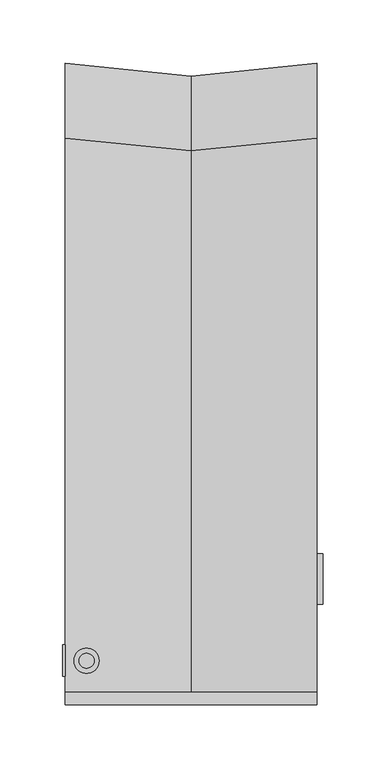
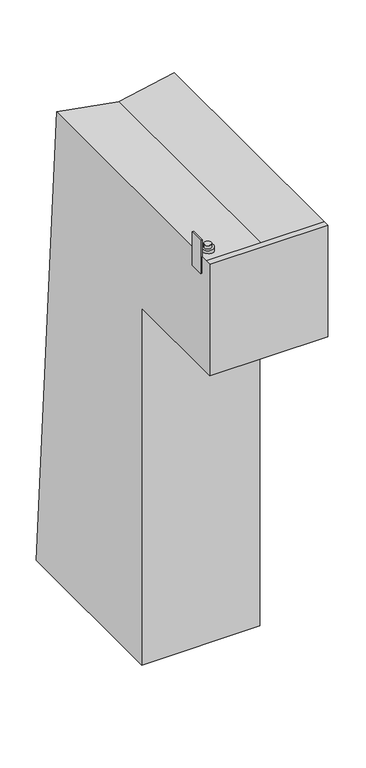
"""IFC4 building model written with IfcOpenShell, lengths in millimetres: furniture geometry, Bebedero : Bebedero."""

from ifc_helpers import new_model, si_unit, point, frame, frame_2d, origin, place, context, project, spatial, polyline, circle_curve, trimmed, segment, composite_curve, outline, extrude, faceted_brep, source, transform, mapped, element, save


def furniture_aa3b6743(model_context):
    return source(origin(), model_context, "Body", "SolidModel", [
        extrude(outline(composite_curve([segment(trimmed(circle_curve(frame_2d((-100.0, 740.0)), 20.0), [point((-120.0, 740.0))], [point((-80.0, 740.0))], False, "CARTESIAN"), True, "CONTINUOUS"), segment(trimmed(circle_curve(frame_2d((-100.0, 740.0)), 20.0), [point((-80.0, 740.0))], [point((-120.0, 740.0))], False, "CARTESIAN"), True, "CONTINUOUS")], self_intersect=False)), frame((100.0, 0.0, 0.0), z_axis=(1.0, 0.0, 0.0), x_axis=(0.0, 1.0, 0.0)), (0.0, 0.0, 1.0), 5.0),
        extrude(outline(composite_curve([segment(trimmed(circle_curve(frame_2d((-83.1664177, -164.9187737)), 6.0), [point((-89.1664177, -164.9187737))], [point((-77.1664177, -164.9187737))], False, "CARTESIAN"), True, "CONTINUOUS"), segment(trimmed(circle_curve(frame_2d((-83.1664177, -164.9187737)), 6.0), [point((-77.1664177, -164.9187737))], [point((-89.1664177, -164.9187737))], False, "CARTESIAN"), True, "CONTINUOUS")], self_intersect=False)), frame((0.0, 0.0, 844.0047458), z_axis=(0.0, 0.0, 1.0), x_axis=(1.0, 0.0, 0.0)), (0.0, 0.0, 1.0), 5.9952542),
        extrude(outline(composite_curve([segment(trimmed(circle_curve(frame_2d((-83.1664177, -164.9187737)), 10.0), [point((-93.1664177, -164.9187737))], [point((-73.1664177, -164.9187737))], False, "CARTESIAN"), True, "CONTINUOUS"), segment(trimmed(circle_curve(frame_2d((-83.1664177, -164.9187737)), 10.0), [point((-73.1664177, -164.9187737))], [point((-93.1664177, -164.9187737))], False, "CARTESIAN"), True, "CONTINUOUS")], self_intersect=False)), frame((0.0, 0.0, 829.4895765), z_axis=(0.0, 0.0, 1.0), x_axis=(1.0, 0.0, 0.0)), (0.0, 0.0, 1.0), 14.5151694),
        extrude(outline(polyline([(-100.0, -152.4187737), (-100.0, -177.4187737), (-102.0, -177.4187737), (-102.0, -152.4187737), (-100.0, -152.4187737)])), frame((0.0, 0.0, 809.9184499), z_axis=(0.0, 0.0, 1.0), x_axis=(1.0, 0.0, 0.0)), (0.0, 0.0, 1.0), 60.0),
        faceted_brep([(100.0, 0.0, 0.0), (100.0, 310.0, 0.0), (100.0, 250.0, 840.0), (100.0, -190.0, 840.0), (100.0, -200.0, 840.0), (100.0, -200.0, 640.0), (100.0, 0.0, 640.0), (-100.0, 0.0, 0.0), (-100.0, 0.0, 640.0), (-100.0, -200.0, 640.0), (-100.0, -200.0, 840.0), (-100.0, -190.0, 840.0), (-100.0, 250.0, 840.0), (-100.0, 310.0, 0.0), (0.0, 299.4627983, 0.0), (0.0, 240.2135428, 829.4895765), (0.0, -190.0, 829.4895765)], [[[0, 1, 2, 3, 4, 5, 6]], [[7, 8, 9, 10, 11, 12, 13]], [[1, 0, 7, 13, 14]], [[10, 4, 3, 11]], [[5, 4, 10, 9]], [[6, 5, 9, 8]], [[0, 6, 8, 7]], [[12, 15, 14, 13]], [[15, 2, 1, 14]], [[16, 11, 3]], [[15, 12, 11, 16]], [[2, 15, 16, 3]]]),
    ])


if __name__ == "__main__":
    model = new_model("IFC4")
    model_context = context("Model", 3, world=origin())
    ifc_project = project(units=[si_unit("LENGTHUNIT", "METRE", prefix="MILLI")], contexts=[model_context])
    site = spatial("IfcSite", under=ifc_project)
    building = spatial("IfcBuilding", under=site)
    placement = place(None, origin())
    furniture_shape = furniture_aa3b6743(model_context)
    element("IfcFurniture", 1, ObjectType="Bebedero : Bebedero", at=placement, inside=building, context=model_context, shape_type="MappedRepresentation", body=[
        mapped(furniture_shape, transform((0.0, 0.0, 0.0), x_axis=(1.0, 0.0, 0.0), y_axis=(0.0, 1.0, 0.0), z_axis=(0.0, 0.0, 1.0))),
    ])
    save(model, "model.ifc")
